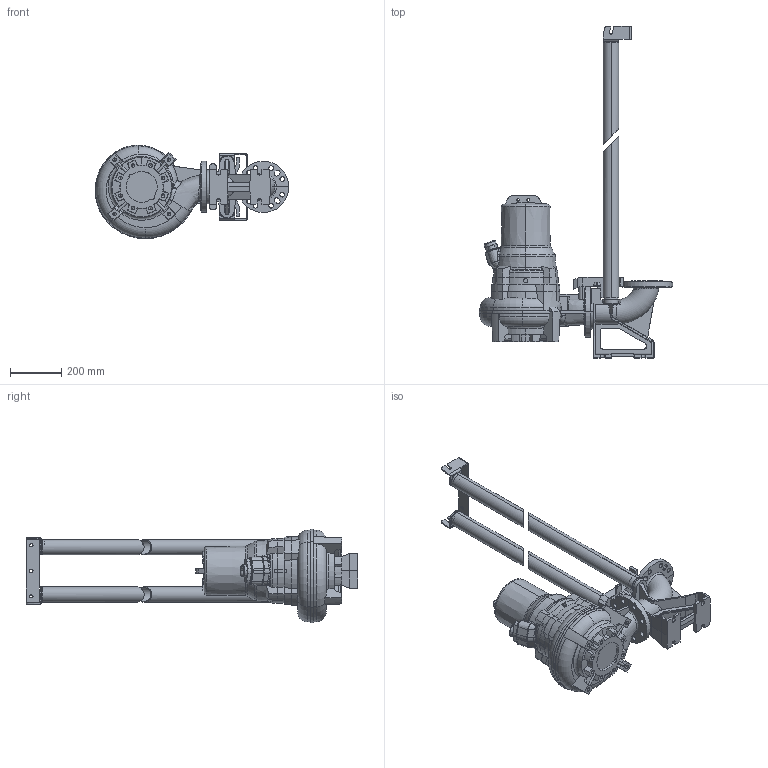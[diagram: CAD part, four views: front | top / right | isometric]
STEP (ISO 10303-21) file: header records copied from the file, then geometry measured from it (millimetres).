
FILE_DESCRIPTION (( 'STEP AP203' ), '1' );
FILE_NAME ('80FWC-M_5,5kW COUPLING SYSTEM.STEP', '2025-03-21T16:09:10', ( '' ), ( '' ), 'SwSTEP 2.0', 'SolidWorks 2023', '' );
FILE_SCHEMA (( 'CONFIG_CONTROL_DESIGN' ));
Length unit declared in the file: millimetre
Products named in the file (1): 80FWC-M_5,5kW COUPLING SYSTEM
Bounding box: 757.76 x 1297.97 x 365.91 mm (x, y, z)
Volume: 34416560.8 mm3; surface area: 2025743.7 mm2
Topology: 2 solids, 2 shells, 1015 faces, 2711 edges, 1715 vertices
Faces by surface type: plane 453, cylinder 223, cone 169, bspline 96, torus 67, sphere 7
Entity records: 42895 total; most frequent: CARTESIAN_POINT 18800, ORIENTED_EDGE 5366, DIRECTION 4577, EDGE_CURVE 2683, VERTEX_POINT 1715, AXIS2_PLACEMENT_3D 1688, VECTOR 1201, LINE 1201
